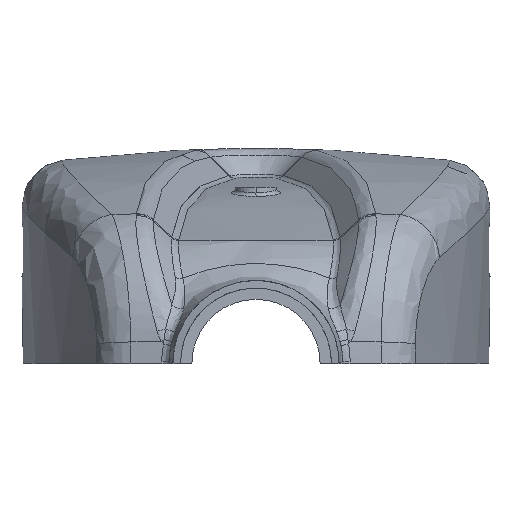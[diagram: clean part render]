
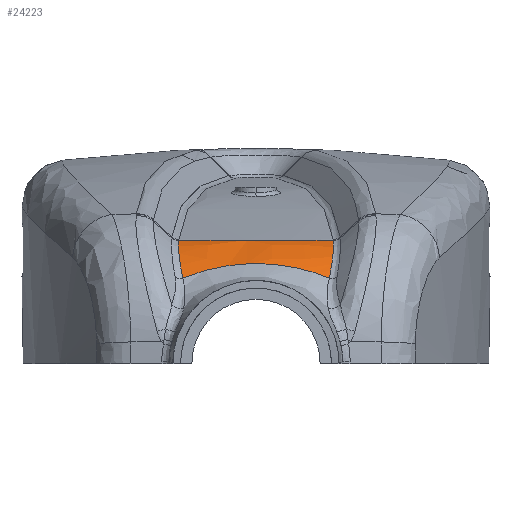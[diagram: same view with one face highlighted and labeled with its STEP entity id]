
A CAD part, left-side view. The second image highlights one B-rep face of the part: STEP entity #24223.
In plain terms, the highlighted free-form (B-spline) face has degree [5, 5] with [6, 6] control points.
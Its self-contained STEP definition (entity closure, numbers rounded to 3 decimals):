
#8435=CARTESIAN_POINT('Vertex',(-304.799,38.796,-44.832)) ;
#8524=CARTESIAN_POINT('Control Point',(-304.799,38.796,-44.832)) ;
#8525=CARTESIAN_POINT('Control Point',(-303.309,39.164,-43.003)) ;
#8526=CARTESIAN_POINT('Control Point',(-301.73,39.499,-41.245)) ;
#8527=CARTESIAN_POINT('Control Point',(-300.067,39.798,-39.561)) ;
#8528=CARTESIAN_POINT('Control Point',(-297.107,40.242,-36.839)) ;
#8529=CARTESIAN_POINT('Control Point',(-293.939,40.574,-34.367)) ;
#8530=CARTESIAN_POINT('Control Point',(-292.603,40.692,-33.396)) ;
#8531=CARTESIAN_POINT('Control Point',(-288.516,40.988,-30.625)) ;
#8532=CARTESIAN_POINT('Control Point',(-284.157,41.118,-28.27)) ;
#8533=CARTESIAN_POINT('Control Point',(-281.148,41.134,-26.896)) ;
#8534=CARTESIAN_POINT('Control Point',(-278.045,41.084,-25.728)) ;
#8535=CARTESIAN_POINT('Control Point',(-274.871,40.974,-24.777)) ;
#8536=CARTESIAN_POINT('Vertex',(-274.871,40.974,-24.777)) ;
#8635=CARTESIAN_POINT('Vertex',(-274.871,-40.974,-24.777)) ;
#8639=CARTESIAN_POINT('Control Point',(-274.871,-40.974,-24.777)) ;
#8640=CARTESIAN_POINT('Control Point',(-278.692,-41.106,-25.922)) ;
#8641=CARTESIAN_POINT('Control Point',(-282.409,-41.152,-27.381)) ;
#8642=CARTESIAN_POINT('Control Point',(-285.985,-41.1,-29.135)) ;
#8643=CARTESIAN_POINT('Control Point',(-290.116,-40.909,-31.592)) ;
#8644=CARTESIAN_POINT('Control Point',(-293.976,-40.561,-34.426)) ;
#8645=CARTESIAN_POINT('Control Point',(-294.639,-40.495,-34.93)) ;
#8646=CARTESIAN_POINT('Control Point',(-295.949,-40.355,-35.962)) ;
#8647=CARTESIAN_POINT('Control Point',(-297.224,-40.195,-37.038)) ;
#8648=CARTESIAN_POINT('Control Point',(-297.853,-40.11,-37.586)) ;
#8649=CARTESIAN_POINT('Control Point',(-299.717,-39.84,-39.27)) ;
#8650=CARTESIAN_POINT('Control Point',(-301.494,-39.528,-41.046)) ;
#8651=CARTESIAN_POINT('Control Point',(-302.639,-39.302,-42.272)) ;
#8652=CARTESIAN_POINT('Control Point',(-303.742,-39.057,-43.534)) ;
#8653=CARTESIAN_POINT('Control Point',(-304.799,-38.796,-44.832)) ;
#8654=CARTESIAN_POINT('Vertex',(-304.799,-38.796,-44.832)) ;
#24140=CARTESIAN_POINT('Control Point',(-274.871,40.974,-24.777)) ;
#24141=CARTESIAN_POINT('Control Point',(-277.699,20.649,-24.573)) ;
#24142=CARTESIAN_POINT('Control Point',(-278.668,-0.003,-24.505)) ;
#24143=CARTESIAN_POINT('Control Point',(-277.699,-20.65,-24.573)) ;
#24144=CARTESIAN_POINT('Control Point',(-274.871,-40.974,-24.777)) ;
#24164=CARTESIAN_POINT('Control Point',(-274.871,40.974,-24.777)) ;
#24165=CARTESIAN_POINT('Control Point',(-281.736,41.905,-26.869)) ;
#24166=CARTESIAN_POINT('Control Point',(-288.286,42.781,-30.024)) ;
#24167=CARTESIAN_POINT('Control Point',(-294.303,43.573,-34.175)) ;
#24168=CARTESIAN_POINT('Control Point',(-299.594,44.255,-39.19)) ;
#24169=CARTESIAN_POINT('Control Point',(-304.021,44.811,-44.888)) ;
#24170=CARTESIAN_POINT('Control Point',(-277.133,24.714,-24.614)) ;
#24171=CARTESIAN_POINT('Control Point',(-284.049,25.275,-26.703)) ;
#24172=CARTESIAN_POINT('Control Point',(-290.644,25.804,-29.854)) ;
#24173=CARTESIAN_POINT('Control Point',(-296.704,26.282,-34.002)) ;
#24174=CARTESIAN_POINT('Control Point',(-302.031,26.695,-39.014)) ;
#24175=CARTESIAN_POINT('Control Point',(-306.488,27.03,-44.709)) ;
#24176=CARTESIAN_POINT('Control Point',(-278.281,8.257,-24.532)) ;
#24177=CARTESIAN_POINT('Control Point',(-285.222,8.444,-26.62)) ;
#24178=CARTESIAN_POINT('Control Point',(-291.841,8.621,-29.769)) ;
#24179=CARTESIAN_POINT('Control Point',(-297.922,8.781,-33.916)) ;
#24180=CARTESIAN_POINT('Control Point',(-303.268,8.919,-38.925)) ;
#24181=CARTESIAN_POINT('Control Point',(-307.74,9.031,-44.619)) ;
#24182=CARTESIAN_POINT('Control Point',(-278.281,-8.261,-24.532)) ;
#24183=CARTESIAN_POINT('Control Point',(-285.221,-8.449,-26.62)) ;
#24184=CARTESIAN_POINT('Control Point',(-291.841,-8.626,-29.769)) ;
#24185=CARTESIAN_POINT('Control Point',(-297.922,-8.786,-33.916)) ;
#24186=CARTESIAN_POINT('Control Point',(-303.268,-8.923,-38.925)) ;
#24187=CARTESIAN_POINT('Control Point',(-307.739,-9.036,-44.619)) ;
#24188=CARTESIAN_POINT('Control Point',(-277.133,-24.715,-24.614)) ;
#24189=CARTESIAN_POINT('Control Point',(-284.048,-25.276,-26.703)) ;
#24190=CARTESIAN_POINT('Control Point',(-290.644,-25.805,-29.854)) ;
#24191=CARTESIAN_POINT('Control Point',(-296.704,-26.283,-34.002)) ;
#24192=CARTESIAN_POINT('Control Point',(-302.031,-26.695,-39.014)) ;
#24193=CARTESIAN_POINT('Control Point',(-306.488,-27.031,-44.709)) ;
#24194=CARTESIAN_POINT('Control Point',(-274.871,-40.974,-24.777)) ;
#24195=CARTESIAN_POINT('Control Point',(-281.736,-41.905,-26.869)) ;
#24196=CARTESIAN_POINT('Control Point',(-288.286,-42.781,-30.024)) ;
#24197=CARTESIAN_POINT('Control Point',(-294.303,-43.573,-34.175)) ;
#24198=CARTESIAN_POINT('Control Point',(-299.594,-44.255,-39.19)) ;
#24199=CARTESIAN_POINT('Control Point',(-304.021,-44.811,-44.888)) ;
#24201=CARTESIAN_POINT('Control Point',(-304.799,38.796,-44.832)) ;
#24202=CARTESIAN_POINT('Control Point',(-303.55,33.192,-42.35)) ;
#24203=CARTESIAN_POINT('Control Point',(-302.408,27.45,-40.463)) ;
#24204=CARTESIAN_POINT('Control Point',(-301.452,21.626,-39.056)) ;
#24205=CARTESIAN_POINT('Control Point',(-300.372,12.499,-37.555)) ;
#24206=CARTESIAN_POINT('Control Point',(-299.997,3.295,-37.063)) ;
#24207=CARTESIAN_POINT('Control Point',(-299.958,0.023,-37.013)) ;
#24208=CARTESIAN_POINT('Control Point',(-300.053,-5.43,-37.135)) ;
#24209=CARTESIAN_POINT('Control Point',(-300.403,-10.865,-37.607)) ;
#24210=CARTESIAN_POINT('Control Point',(-300.583,-13.036,-37.853)) ;
#24211=CARTESIAN_POINT('Control Point',(-301.241,-19.589,-38.77)) ;
#24212=CARTESIAN_POINT('Control Point',(-302.221,-26.076,-40.23)) ;
#24213=CARTESIAN_POINT('Control Point',(-302.998,-30.376,-41.466)) ;
#24214=CARTESIAN_POINT('Control Point',(-303.869,-34.624,-42.984)) ;
#24215=CARTESIAN_POINT('Control Point',(-304.799,-38.796,-44.832)) ;
#24218=ORIENTED_EDGE('',*,*,#24145,.F.) ;
#24219=ORIENTED_EDGE('',*,*,#8538,.T.) ;
#24220=ORIENTED_EDGE('',*,*,#24216,.T.) ;
#24221=ORIENTED_EDGE('',*,*,#8656,.T.) ;
#24223=ADVANCED_FACE('',(#24222),#24163,.F.) ;
#8523=B_SPLINE_CURVE_WITH_KNOTS('',5,(#8524,#8525,#8526,#8527,#8528,#8529,#8530,#8531,#8532,#8533,#8534,#8535),.UNSPECIFIED.,.F.,.U.,(6,3,3,6),(47.807,63.927,75.173,97.563),.UNSPECIFIED.) ;
#8638=B_SPLINE_CURVE_WITH_KNOTS('',5,(#8639,#8640,#8641,#8642,#8643,#8644,#8645,#8646,#8647,#8648,#8649,#8650,#8651,#8652,#8653),.UNSPECIFIED.,.F.,.U.,(6,3,3,3,6),(15.974,42.929,48.611,54.292,65.733),.UNSPECIFIED.) ;
#24139=B_SPLINE_CURVE_WITH_KNOTS('',4,(#24140,#24141,#24142,#24143,#24144),.UNSPECIFIED.,.F.,.U.,(5,5),(39.743,166.716),.UNSPECIFIED.) ;
#24200=B_SPLINE_CURVE_WITH_KNOTS('',5,(#24201,#24202,#24203,#24204,#24205,#24206,#24207,#24208,#24209,#24210,#24211,#24212,#24213,#24214,#24215),.UNSPECIFIED.,.F.,.U.,(6,3,3,3,6),(73.158,118.913,144.086,160.888,194.949),.UNSPECIFIED.) ;
#24163=B_SPLINE_SURFACE_WITH_KNOTS('',5,5,((#24164,#24165,#24166,#24167,#24168,#24169),(#24170,#24171,#24172,#24173,#24174,#24175),(#24176,#24177,#24178,#24179,#24180,#24181),(#24182,#24183,#24184,#24185,#24186,#24187),(#24188,#24189,#24190,#24191,#24192,#24193),(#24194,#24195,#24196,#24197,#24198,#24199)),.UNSPECIFIED.,.F.,.F.,.U.,(6,6),(6,6),(39.743,166.716),(0.,27.252),.UNSPECIFIED.) ;
#8538=EDGE_CURVE('',#8537,#8436,#8523,.F.) ;
#8656=EDGE_CURVE('',#8655,#8636,#8638,.F.) ;
#24145=EDGE_CURVE('',#8537,#8636,#24139,.T.) ;
#24216=EDGE_CURVE('',#8436,#8655,#24200,.T.) ;
#24217=EDGE_LOOP('',(#24218,#24219,#24220,#24221)) ;
#24222=FACE_OUTER_BOUND('',#24217,.T.) ;
#8436=VERTEX_POINT('',#8435) ;
#8537=VERTEX_POINT('',#8536) ;
#8636=VERTEX_POINT('',#8635) ;
#8655=VERTEX_POINT('',#8654) ;
